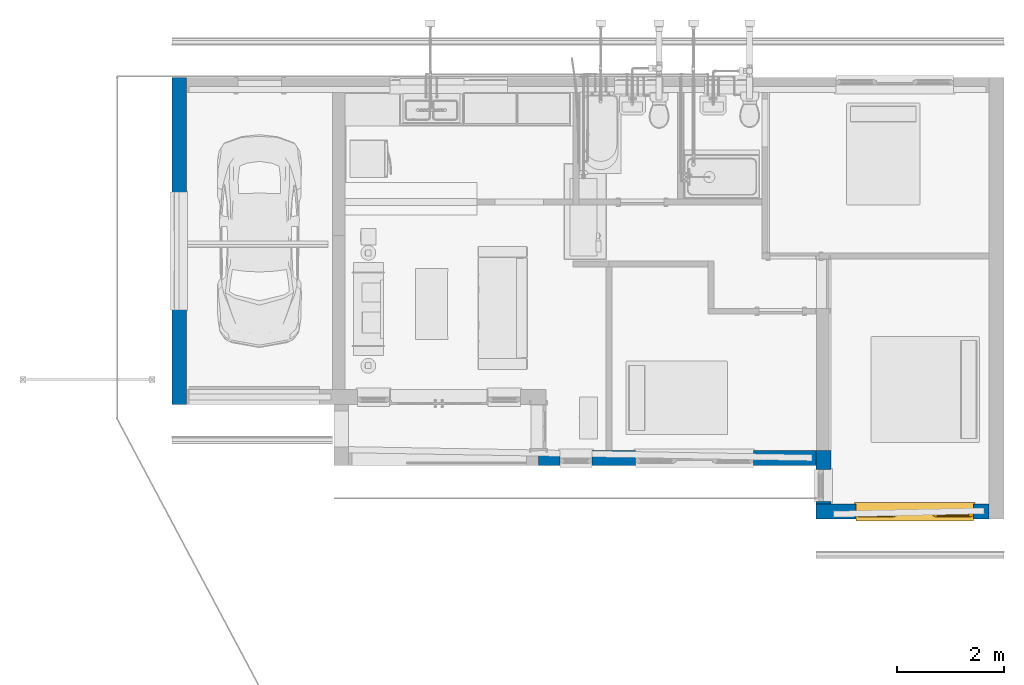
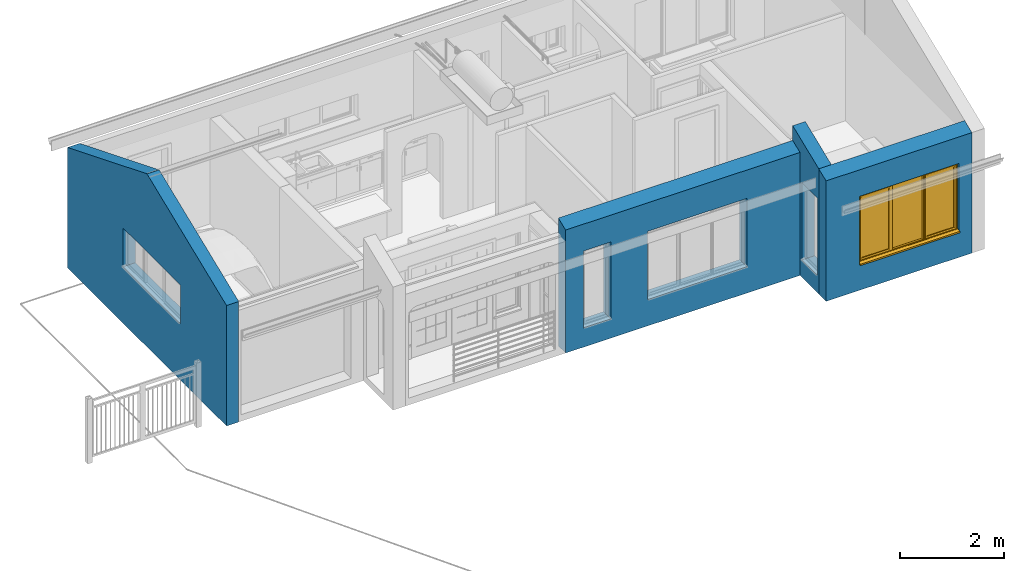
# One storey, part 2 of 41: 4 walls, 1 window, 6 openings.
"""IFC2X3 building model written with IfcOpenShell, lengths in millimetres."""

from ifc_helpers import new_model, entity, si_unit, converted_unit, derived_unit, direction, frame, frame_2d, origin, place, context, subcontext, project, spatial, polyline, rectangle, extrude, clip, bounded_halfspace, faceted_brep, source, transform, mapped, material, material_list, layer, layer_set, layer_usage, type_object, type_shapes, element, fill, save


model = new_model("IFC2X3")

# Units and contexts
model_context = context("Model", 3, precision=0.01, world=origin(), true_north=direction((6.12303176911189e-17, 1.0)))
body_context = subcontext(model_context, "Body", "Model", "MODEL_VIEW")
ifc_project = project(units=[si_unit("LENGTHUNIT", "METRE", prefix="MILLI"), si_unit("AREAUNIT", "SQUARE_METRE"), si_unit("VOLUMEUNIT", "CUBIC_METRE"), converted_unit("PLANEANGLEUNIT", "DEGREE", entity("IfcRatioMeasure", 0.0174532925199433), si_unit("PLANEANGLEUNIT", "RADIAN"), dimensions=[0, 0, 0, 0, 0, 0, 0]), si_unit("MASSUNIT", "GRAM", prefix="KILO"), derived_unit("MASSDENSITYUNIT", [(si_unit("MASSUNIT", "GRAM", prefix="KILO"), 1), (si_unit("LENGTHUNIT", "METRE"), -3)]), si_unit("TIMEUNIT", "SECOND"), si_unit("FREQUENCYUNIT", "HERTZ"), si_unit("THERMODYNAMICTEMPERATUREUNIT", "DEGREE_CELSIUS"), derived_unit("THERMALTRANSMITTANCEUNIT", [(si_unit("MASSUNIT", "GRAM", prefix="KILO"), 1), (si_unit("THERMODYNAMICTEMPERATUREUNIT", "KELVIN"), -1), (si_unit("TIMEUNIT", "SECOND"), -3)]), derived_unit("VOLUMETRICFLOWRATEUNIT", [(si_unit("LENGTHUNIT", "METRE"), 3), (si_unit("TIMEUNIT", "SECOND"), -1)]), si_unit("ELECTRICCURRENTUNIT", "AMPERE"), si_unit("ELECTRICVOLTAGEUNIT", "VOLT"), si_unit("POWERUNIT", "WATT"), si_unit("FORCEUNIT", "NEWTON", prefix="KILO"), si_unit("ILLUMINANCEUNIT", "LUX"), si_unit("LUMINOUSFLUXUNIT", "LUMEN"), si_unit("LUMINOUSINTENSITYUNIT", "CANDELA"), derived_unit("USERDEFINED", [(si_unit("MASSUNIT", "GRAM", prefix="KILO"), -1), (si_unit("LENGTHUNIT", "METRE"), -2), (si_unit("TIMEUNIT", "SECOND"), 3), (si_unit("LUMINOUSFLUXUNIT", "LUMEN"), 1)]), derived_unit("LINEARVELOCITYUNIT", [(si_unit("LENGTHUNIT", "METRE"), 1), (si_unit("TIMEUNIT", "SECOND"), -1)]), si_unit("PRESSUREUNIT", "PASCAL"), derived_unit("USERDEFINED", [(si_unit("LENGTHUNIT", "METRE"), -2), (si_unit("MASSUNIT", "GRAM", prefix="KILO"), 1), (si_unit("TIMEUNIT", "SECOND"), -2)])], contexts=[model_context])

# Site, building, storey
site_placement = place(None, origin())
site = spatial("IfcSite", under=ifc_project, at=site_placement, Name="Surface", CompositionType="ELEMENT")
building_placement = place(site_placement, origin())
building = spatial("IfcBuilding", under=site, at=building_placement, CompositionType="ELEMENT")
storey_placement = place(building_placement, frame((0.0, 0.0, 300.0)))
storey = spatial("IfcBuildingStorey", under=building, at=storey_placement, Name="F.F.L", CompositionType="ELEMENT", Elevation=300.0)

# Wall, openings, window
ifc_material_1 = material(Name="Brickwork - Facebrick (Plettenberg Autumn)")
ifc_layer_1 = layer(ifc_material_1, 110.0)
ifc_material_2 = material(Name="Air Infiltration Barrier")
ifc_layer_2 = layer(ifc_material_2, 50.0)
ifc_material_3 = material(Name="Brickwork - 110mm (Stock)")
ifc_layer_3 = layer(ifc_material_3, 110.0)
ifc_material_4 = material(Name="Plaster")
ifc_layer_4 = layer(ifc_material_4, 10.0)
ifc_layer_set_1 = layer_set([ifc_layer_1, ifc_layer_2, ifc_layer_3, ifc_layer_4], Name="Basic Wall:BrickWall - 270mm (Ext.F&Int.S)")
ifc_layer_usage_1 = layer_usage(ifc_layer_set_1, "AXIS2", "NEGATIVE", 140.0)
wall_type_1 = type_object("IfcWallType", Name="Basic Wall:BrickWall - 270mm (Ext.F&Int.S)", PredefinedType="STANDARD", material=ifc_layer_set_1)
wall_1_placement = place(storey_placement, frame((3183.1248299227, 2720.84008915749, -150.0), z_axis=(0.0, 0.0, 1.0), x_axis=(-1.0, 0.0, 0.0)))
wall_1 = element("IfcWallStandardCase", 1, at=wall_1_placement, inside=storey, type_object=wall_type_1, material=ifc_layer_usage_1, Name="Basic Wall:BrickWall - 270mm (Ext.F&Int.S)", ObjectType="Basic Wall:BrickWall - 270mm (Ext.F&Int.S)", context=body_context, shape_type="Clipping", body=[
    clip(extrude(rectangle(XDim=3230.0, YDim=280.0, at=frame_2d((1615.0, 0.0), x_axis=(-1.0, 0.0))), origin(), (0.0, 0.0, 1.0), 2932.80200914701), bounded_halfspace(frame((0.0, -140.0, 2932.80200914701), z_axis=(0.0, 0.374606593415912, 0.927183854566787), x_axis=(-1.0, 0.0, 0.0)), False, frame((0.0, -140.0, 2932.80200914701)), polyline([(0.0, 0.0), (2950.0, 0.0), (3230.0, 0.0), (3230.0, 280.0), (0.0, 280.0), (0.0, 0.0)]))),
])
opening_1_placement = place(wall_1_placement, origin())
element("IfcOpeningElement", 2, at=opening_1_placement, cuts=wall_1, Name="Basic Wall:BrickWall - 270mm (Ext.F&Int.S)", ObjectType="Opening", context=body_context, shape_type="SweptSolid", body=[
    extrude(rectangle(XDim=1800.0, YDim=280.0, at=frame_2d((0.0, 0.0), x_axis=(0.0, 1.0))), frame((3090.0, -780.0, 1315.0), z_axis=(0.0, 1.0, 0.0), x_axis=(1.0, 0.0, 0.0)), (0.0, 0.0, 1.0), 600.0),
])
opening_2_placement = place(wall_1_placement, frame((290.0, -140.0, 600.0)))
opening_2 = element("IfcOpeningElement", 3, at=opening_2_placement, cuts=wall_1, Name="Tpl All Bars1:Tpl All Bars 4:1", ObjectType="Opening", context=body_context, shape_type="SweptSolid", body=[
    extrude(rectangle(XDim=1600.0, YDim=2200.0, at=frame_2d((800.000000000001, 1100.0), x_axis=(-1.0, 0.0))), frame((0.0, 0.0, 0.0), z_axis=(0.0, 1.0, 0.0), x_axis=(0.0, 0.0, 1.0)), (0.0, 0.0, 1.0), 280.0),
])
ifc_material_5 = material(Name="Meranti - Varnish Mat")
ifc_material_6 = material(Name="Glass")
ifc_material_list_1 = material_list([ifc_material_5, ifc_material_6])
ifc_material_list_2 = material_list([ifc_material_5, ifc_material_6])
window_style = type_object("IfcWindowStyle", Name="Tpl All Bars 4", ConstructionType="NOTDEFINED", OperationType="TRIPLE_PANEL_VERTICAL", ParameterTakesPrecedence=False, Sizeable=False, material=ifc_material_list_2)
shared_shape = source(origin(), body_context, "Body", "Brep", [
    faceted_brep([(-25.0, -25.0, 0.0), (-25.0, 0.0, 0.0), (0.0, 0.0, 0.0), (0.0, 147.0, 0.0), (2200.0, 147.0, 0.0), (2200.0, 0.0, 0.0), (2225.0, 0.0, 0.0), (2225.0, -25.0, 0.0), (-25.0, -25.0, 25.0), (2225.0, -25.0, 25.0), (2225.0, 0.0, 25.0), (2200.0, 0.0, 25.0), (2200.0, 147.0, 25.0), (0.0, 147.0, 25.0), (0.0, 0.0, 25.0), (-25.0, 0.0, 25.0)], [[[0, 1, 2, 3, 4, 5, 6, 7]], [[8, 9, 10, 11, 12, 13, 14, 15]], [[1, 0, 8, 15]], [[2, 1, 15, 14]], [[3, 2, 14, 13]], [[4, 3, 13, 12]], [[5, 4, 12, 11]], [[6, 5, 11, 10]], [[7, 6, 10, 9]], [[0, 7, 9, 8]]]),
    faceted_brep([(2140.0, 147.0, 1540.0), (2140.0, 147.0, 75.0), (1499.66666666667, 147.0, 75.0), (1499.66666666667, 147.0, 1540.0), (1441.66666666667, 147.0, 1540.0), (1441.66666666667, 147.0, 75.0), (758.333333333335, 147.0, 75.0), (758.333333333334, 147.0, 1540.0), (700.333333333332, 147.0, 1540.0), (700.333333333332, 147.0, 75.0), (60.0, 147.0, 75.0), (60.0, 147.0, 1540.0), (2200.0, 147.0, 1600.0), (0.0, 147.0, 1600.0), (0.0, 147.0, 0.0), (2200.0, 147.0, 0.0), (0.0, 230.0, 1600.0), (0.0, 230.0, 51.0), (0.0, 245.0, 49.6876700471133), (0.0, 245.0, 44.7449676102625), (0.0, 317.500000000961, 33.808884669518), (0.0, 317.500000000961, 0.0), (2200.0, 230.0, 1600.0), (2200.0, 230.0, 51.0), (40.0, 230.0, 1560.0), (40.0, 230.0, 63.0), (718.333333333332, 230.0, 63.0), (718.333333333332, 230.0, 1560.0), (758.333333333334, 230.0, 1560.0), (758.333333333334, 230.0, 63.0), (1441.66666666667, 230.0, 63.0), (1441.66666666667, 230.0, 1560.0), (1481.66666666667, 230.0, 1560.0), (1481.66666666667, 230.0, 63.0), (2160.0, 230.0, 63.0), (2160.0, 230.0, 1560.0), (40.0, 165.0, 1560.0), (40.0, 165.0, 63.0), (718.333333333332, 165.0, 1560.0), (718.333333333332, 165.0, 63.0), (700.333333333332, 165.0, 1540.0), (60.0, 165.0, 1540.0), (60.0, 165.0, 75.0), (700.333333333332, 165.0, 75.0), (2200.0, 317.500000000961, 0.0), (2200.0, 317.500000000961, 33.808884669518), (2200.0, 245.0, 44.7449676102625), (2200.0, 245.0, 49.6876700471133), (2160.0, 165.0, 63.0), (2160.0, 165.0, 1560.0), (2140.0, 165.0, 1540.0), (2140.0, 165.0, 75.0), (758.333333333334, 165.0, 1540.0), (758.333333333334, 165.0, 75.0), (758.333333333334, 189.0, 1560.0), (758.333333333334, 189.0, 63.0), (748.333333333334, 189.0, 1560.0), (748.333333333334, 189.0, 63.0), (748.333333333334, 165.0, 1560.0), (748.333333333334, 165.0, 63.0), (1451.66666666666, 189.0, 1560.0), (1451.66666666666, 189.0, 63.0), (1451.66666666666, 165.0, 63.0), (1451.66666666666, 165.0, 1560.0), (1441.66666666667, 189.0, 1560.0), (1441.66666666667, 189.0, 63.0), (1481.66666666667, 165.0, 1560.0), (1481.66666666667, 165.0, 63.0), (1499.66666666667, 165.0, 1540.0), (1499.66666666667, 165.0, 75.0), (1441.66666666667, 165.0, 1540.0), (1441.66666666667, 165.0, 75.0)], [[[0, 1, 2, 3], [4, 5, 6, 7], [8, 9, 10, 11], [12, 13, 14, 15]], [[14, 13, 16, 17, 18, 19, 20, 21]], [[17, 16, 22, 23], [24, 25, 26, 27], [28, 29, 30, 31], [32, 33, 34, 35]], [[25, 24, 36, 37]], [[36, 38, 39, 37], [40, 41, 42, 43]], [[41, 11, 10, 42]], [[13, 12, 22, 16]], [[36, 24, 27, 38]], [[11, 41, 40, 8]], [[23, 22, 12, 15, 44, 45, 46, 47]], [[35, 34, 48, 49]], [[0, 50, 51, 1]], [[52, 7, 6, 53]], [[8, 40, 43, 9]], [[27, 26, 39, 38]], [[29, 28, 54, 55]], [[55, 54, 56, 57]], [[57, 56, 58, 59]], [[60, 61, 62, 63]], [[61, 60, 64, 65]], [[65, 64, 31, 30]], [[33, 32, 66, 67]], [[68, 3, 2, 69]], [[4, 70, 71, 5]], [[44, 15, 14, 21]], [[45, 44, 21, 20]], [[46, 45, 20, 19]], [[47, 46, 19, 18]], [[23, 47, 18, 17]], [[34, 33, 67, 48]], [[2, 1, 51, 69]], [[71, 53, 6, 5]], [[43, 42, 10, 9]], [[59, 62, 61, 65, 30, 29, 55, 57]], [[26, 25, 37, 39]], [[7, 52, 70, 4]], [[50, 0, 3, 68]], [[54, 28, 31, 64, 60, 63, 58, 56]], [[35, 49, 66, 32]], [[58, 63, 62, 59], [70, 52, 53, 71]], [[66, 49, 48, 67], [50, 68, 69, 51]]], outer=[[False, False, False, True], [True], [True, False, False, False], [True], [True, False], [True], [True], [True], [True], [True], [True], [True], [True], [True], [True], [True], [True], [True], [True], [True], [True], [True], [True], [True], [True], [True], [True], [True], [True], [True], [True], [True], [True], [True], [True], [True], [True], [True], [True], [True, False], [True, False]]),
    faceted_brep([(2130.0, 194.0, 1530.0), (1511.66666666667, 194.0, 1530.0), (1511.66666666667, 194.0, 93.0), (2130.0, 194.0, 93.0), (2130.0, 218.0, 1530.0), (2130.0, 218.0, 93.0), (1511.66666666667, 218.0, 93.0), (1511.66666666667, 218.0, 1530.0)], [[[0, 1, 2, 3]], [[4, 5, 6, 7]], [[1, 0, 4, 7]], [[2, 1, 7, 6]], [[3, 2, 6, 5]], [[0, 3, 5, 4]]]),
    faceted_brep([(1451.66666666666, 189.0, 1560.0), (1451.66666666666, 189.0, 63.0), (748.333333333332, 189.0, 63.0), (748.333333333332, 189.0, 1560.0), (1451.66666666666, 165.0, 1560.0), (748.333333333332, 165.0, 1560.0), (748.333333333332, 165.0, 63.0), (1451.66666666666, 165.0, 63.0)], [[[0, 1, 2, 3]], [[4, 5, 6, 7]], [[1, 0, 4, 7]], [[2, 1, 7, 6]], [[3, 2, 6, 5]], [[0, 3, 5, 4]]]),
    faceted_brep([(70.0, 194.0, 1530.14803772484), (70.0, 194.0, 93.0), (688.481371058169, 194.0, 93.0), (688.481371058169, 194.0, 1530.14803772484), (70.0, 218.0, 1530.14803772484), (688.481371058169, 218.0, 1530.14803772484), (688.481371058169, 218.0, 93.0), (70.0, 218.0, 93.0)], [[[0, 1, 2, 3]], [[4, 5, 6, 7]], [[1, 0, 4, 7]], [[2, 1, 7, 6]], [[3, 2, 6, 5]], [[0, 3, 5, 4]]]),
    faceted_brep([(728.333333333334, 230.0, 1570.0), (728.333333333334, 235.773502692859, 1570.0), (30.0, 235.773502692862, 1570.0), (30.0, 230.0, 1570.0), (718.333333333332, 165.0, 1560.0), (718.333333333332, 230.0, 1560.0), (40.0, 230.0, 1560.0), (40.0, 165.0, 1560.0), (678.333333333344, 179.492899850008, 1520.0), (688.481371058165, 165.0, 1530.14803772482), (69.8519622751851, 165.0, 1530.14803772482), (80.0, 179.49289985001, 1520.0), (678.333333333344, 194.0, 1520.0), (80.0, 194.0, 1520.0), (688.333333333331, 218.0, 1530.0), (688.333333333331, 194.0, 1530.0), (70.0, 194.0, 1530.0), (70.0, 218.0, 1530.0), (678.333333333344, 235.773502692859, 1520.0), (678.333333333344, 218.0, 1520.0), (80.0, 218.0, 1520.0), (80.0, 235.773502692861, 1520.0), (695.779088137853, 241.547005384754, 1537.4457548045), (62.5542451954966, 241.547005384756, 1537.4457548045), (717.548723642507, 241.547005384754, 1559.21539030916), (40.7846096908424, 241.547005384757, 1559.21539030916), (30.0, 235.773502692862, 53.0), (30.0, 230.0, 53.0), (40.0, 230.0, 63.0), (40.0, 165.0, 63.0), (69.8519622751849, 165.0, 92.8519622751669), (80.0, 179.49289985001, 103.0), (80.0, 194.0, 103.0), (70.0, 194.0, 93.0), (70.0, 218.0, 93.0), (80.0, 218.0, 103.0), (80.0, 235.773502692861, 103.0), (62.5542451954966, 241.547005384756, 85.5542451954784), (40.7846096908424, 241.547005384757, 63.7846096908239), (728.333333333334, 235.773502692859, 53.0), (728.333333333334, 230.0, 53.0), (718.333333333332, 230.0, 63.0), (718.333333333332, 165.0, 63.0), (688.481371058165, 165.0, 92.8519622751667), (678.333333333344, 179.492899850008, 103.0), (678.333333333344, 194.0, 103.0), (688.333333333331, 194.0, 93.0), (688.333333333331, 218.0, 93.0), (678.333333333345, 218.0, 103.0), (678.333333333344, 235.773502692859, 103.0), (695.779088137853, 241.547005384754, 85.5542451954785), (717.548723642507, 241.547005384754, 63.7846096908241)], [[[0, 1, 2, 3]], [[4, 5, 6, 7]], [[8, 9, 10, 11]], [[12, 8, 11, 13]], [[14, 15, 16, 17]], [[18, 19, 20, 21]], [[22, 18, 21, 23]], [[1, 24, 25, 2]], [[3, 2, 26, 27]], [[7, 6, 28, 29]], [[11, 10, 30, 31]], [[13, 11, 31, 32]], [[17, 16, 33, 34]], [[21, 20, 35, 36]], [[23, 21, 36, 37]], [[2, 25, 38, 26]], [[27, 26, 39, 40]], [[0, 3, 27, 40], [41, 28, 6, 5]], [[29, 28, 41, 42]], [[4, 7, 29, 42], [43, 30, 10, 9]], [[31, 30, 43, 44]], [[32, 31, 44, 45]], [[12, 13, 32, 45], [46, 33, 16, 15]], [[34, 33, 46, 47]], [[14, 17, 34, 47], [48, 35, 20, 19]], [[36, 35, 48, 49]], [[37, 36, 49, 50]], [[22, 23, 37, 50], [51, 38, 25, 24]], [[26, 38, 51, 39]], [[40, 39, 1, 0]], [[42, 41, 5, 4]], [[44, 43, 9, 8]], [[45, 44, 8, 12]], [[47, 46, 15, 14]], [[49, 48, 19, 18]], [[50, 49, 18, 22]], [[39, 51, 24, 1]]], outer=[[True], [True], [True], [True], [True], [True], [True], [True], [True], [True], [True], [True], [True], [True], [True], [True], [True], [True, False], [True], [True, False], [True], [True], [False, True], [True], [True, False], [True], [True], [False, True], [True], [True], [True], [True], [True], [True], [True], [True], [True]]),
    faceted_brep([(1471.66666666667, 230.0, 1570.0), (1471.66666666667, 235.773502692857, 1570.0), (1471.66666666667, 235.773502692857, 53.0), (1471.66666666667, 230.0, 53.0), (1481.66666666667, 165.0, 1560.0), (1481.66666666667, 230.0, 1560.0), (1481.66666666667, 230.0, 63.0), (1481.66666666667, 165.0, 63.0), (1521.66666666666, 179.492899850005, 1520.0), (1511.51862894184, 165.0, 1530.14803772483), (1511.51862894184, 165.0, 92.8519622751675), (1521.66666666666, 179.492899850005, 103.0), (1521.66666666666, 194.0, 1520.0), (1521.66666666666, 194.0, 103.0), (1511.66666666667, 218.0, 1530.0), (1511.66666666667, 194.0, 1530.0), (1511.66666666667, 194.0, 93.0), (1511.66666666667, 218.0, 93.0), (1521.66666666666, 235.773502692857, 1520.0), (1521.66666666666, 218.0, 1520.0), (1521.66666666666, 218.0, 103.0), (1521.66666666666, 235.773502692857, 103.0), (1504.22091186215, 241.547005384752, 1537.44575480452), (1504.22091186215, 241.547005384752, 85.5542451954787), (1482.45127635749, 241.547005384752, 1559.21539030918), (1482.45127635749, 241.547005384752, 63.7846096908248), (2170.0, 235.773502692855, 53.0), (2170.0, 230.0, 53.0), (2160.0, 230.0, 63.0), (2160.0, 165.0, 63.0), (2130.14803772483, 165.0, 92.8519622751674), (2120.0, 179.492899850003, 103.0), (2120.0, 194.0, 103.0), (2130.0, 194.0, 93.0), (2130.0, 218.0, 93.0), (2120.0, 218.0, 103.0), (2120.0, 235.773502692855, 103.0), (2137.44575480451, 241.54700538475, 85.5542451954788), (2159.21539030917, 241.54700538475, 63.7846096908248), (2170.0, 235.773502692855, 1570.0), (2170.0, 230.0, 1570.0), (2160.0, 230.0, 1560.0), (2160.0, 165.0, 1560.0), (2130.14803772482, 165.0, 1530.14803772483), (2120.0, 179.492899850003, 1520.0), (2120.0, 194.0, 1520.0), (2130.0, 194.0, 1530.0), (2130.0, 218.0, 1530.0), (2120.0, 218.0, 1520.0), (2120.0, 235.773502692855, 1520.0), (2137.44575480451, 241.54700538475, 1537.44575480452), (2159.21539030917, 241.54700538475, 1559.21539030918)], [[[0, 1, 2, 3]], [[4, 5, 6, 7]], [[8, 9, 10, 11]], [[12, 8, 11, 13]], [[14, 15, 16, 17]], [[18, 19, 20, 21]], [[22, 18, 21, 23]], [[1, 24, 25, 2]], [[3, 2, 26, 27]], [[7, 6, 28, 29]], [[11, 10, 30, 31]], [[13, 11, 31, 32]], [[17, 16, 33, 34]], [[21, 20, 35, 36]], [[23, 21, 36, 37]], [[2, 25, 38, 26]], [[27, 26, 39, 40]], [[29, 28, 41, 42]], [[31, 30, 43, 44]], [[32, 31, 44, 45]], [[34, 33, 46, 47]], [[36, 35, 48, 49]], [[37, 36, 49, 50]], [[26, 38, 51, 39]], [[40, 39, 1, 0]], [[3, 27, 40, 0], [5, 41, 28, 6]], [[42, 41, 5, 4]], [[7, 29, 42, 4], [9, 43, 30, 10]], [[44, 43, 9, 8]], [[45, 44, 8, 12]], [[13, 32, 45, 12], [15, 46, 33, 16]], [[47, 46, 15, 14]], [[17, 34, 47, 14], [19, 48, 35, 20]], [[49, 48, 19, 18]], [[50, 49, 18, 22]], [[23, 37, 50, 22], [24, 51, 38, 25]], [[39, 51, 24, 1]]], outer=[[True], [True], [True], [True], [True], [True], [True], [True], [True], [True], [True], [True], [True], [True], [True], [True], [True], [True], [True], [True], [True], [True], [True], [True], [True], [True, False], [True], [True, False], [True], [True], [False, True], [True], [True, False], [True], [True], [False, True], [True]]),
    faceted_brep([(1090.0, 173.0, 63.0), (1110.0, 173.0, 63.0), (1110.0, 173.0, 552.0), (1451.66666666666, 173.0, 552.0), (1451.66666666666, 173.0, 572.0), (1110.0, 173.0, 572.0), (1110.0, 173.0, 1051.0), (1451.66666666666, 173.0, 1051.0), (1451.66666666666, 173.0, 1071.0), (1110.0, 173.0, 1071.0), (1110.0, 173.0, 1560.0), (1090.0, 173.0, 1560.0), (1090.0, 173.0, 1071.0), (748.33333333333, 173.0, 1071.0), (748.33333333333, 173.0, 1051.0), (1090.0, 173.0, 1051.0), (1090.0, 173.0, 572.0), (748.33333333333, 173.0, 572.0), (748.33333333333, 173.0, 552.0), (1090.0, 173.0, 552.0), (1090.0, 181.0, 63.0), (1090.0, 181.0, 552.0), (748.33333333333, 181.0, 552.0), (748.33333333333, 181.0, 572.0), (1090.0, 181.0, 572.0), (1090.0, 181.0, 1051.0), (748.33333333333, 181.0, 1051.0), (748.33333333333, 181.0, 1071.0), (1090.0, 181.0, 1071.0), (1090.0, 181.0, 1560.0), (1110.0, 181.0, 1560.0), (1110.0, 181.0, 1071.0), (1451.66666666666, 181.0, 1071.0), (1451.66666666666, 181.0, 1051.0), (1110.0, 181.0, 1051.0), (1110.0, 181.0, 572.0), (1451.66666666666, 181.0, 572.0), (1451.66666666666, 181.0, 552.0), (1110.0, 181.0, 552.0), (1110.0, 181.0, 63.0)], [[[0, 1, 2, 3, 4, 5, 6, 7, 8, 9, 10, 11, 12, 13, 14, 15, 16, 17, 18, 19]], [[20, 21, 22, 23, 24, 25, 26, 27, 28, 29, 30, 31, 32, 33, 34, 35, 36, 37, 38, 39]], [[1, 0, 20, 39]], [[2, 1, 39, 38]], [[3, 2, 38, 37]], [[4, 3, 37, 36]], [[5, 4, 36, 35]], [[6, 5, 35, 34]], [[7, 6, 34, 33]], [[8, 7, 33, 32]], [[9, 8, 32, 31]], [[10, 9, 31, 30]], [[11, 10, 30, 29]], [[12, 11, 29, 28]], [[13, 12, 28, 27]], [[14, 13, 27, 26]], [[15, 14, 26, 25]], [[16, 15, 25, 24]], [[17, 16, 24, 23]], [[18, 17, 23, 22]], [[19, 18, 22, 21]], [[0, 19, 21, 20]]]),
    faceted_brep([(369.166666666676, 210.0, 93.0), (369.166666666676, 210.0, 552.0), (70.0, 210.0, 552.0), (70.0, 210.0, 572.0), (369.166666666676, 210.0, 572.0), (369.166666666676, 210.0, 1051.0), (70.0, 210.0, 1051.0), (70.0, 210.0, 1071.0), (369.166666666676, 210.0, 1071.0), (369.166666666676, 210.0, 1530.0), (389.166666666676, 210.0, 1530.0), (389.166666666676, 210.0, 1071.0), (688.333333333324, 210.0, 1071.0), (688.333333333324, 210.0, 1051.0), (389.166666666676, 210.0, 1051.0), (389.166666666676, 210.0, 572.0), (688.333333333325, 210.0, 572.0), (688.333333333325, 210.0, 552.0), (389.166666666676, 210.0, 552.0), (389.166666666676, 210.0, 93.0), (369.166666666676, 202.0, 93.0), (389.166666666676, 202.0, 93.0), (389.166666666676, 202.0, 552.0), (688.333333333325, 202.0, 552.0), (688.333333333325, 202.0, 572.0), (389.166666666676, 202.0, 572.0), (389.166666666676, 202.0, 1051.0), (688.333333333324, 202.0, 1051.0), (688.333333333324, 202.0, 1071.0), (389.166666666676, 202.0, 1071.0), (389.166666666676, 202.0, 1530.0), (369.166666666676, 202.0, 1530.0), (369.166666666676, 202.0, 1071.0), (70.0, 202.0, 1071.0), (70.0, 202.0, 1051.0), (369.166666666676, 202.0, 1051.0), (369.166666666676, 202.0, 572.0), (70.0, 202.0, 572.0), (70.0, 202.0, 552.0), (369.166666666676, 202.0, 552.0)], [[[0, 1, 2, 3, 4, 5, 6, 7, 8, 9, 10, 11, 12, 13, 14, 15, 16, 17, 18, 19]], [[20, 21, 22, 23, 24, 25, 26, 27, 28, 29, 30, 31, 32, 33, 34, 35, 36, 37, 38, 39]], [[1, 0, 20, 39]], [[2, 1, 39, 38]], [[3, 2, 38, 37]], [[4, 3, 37, 36]], [[5, 4, 36, 35]], [[6, 5, 35, 34]], [[7, 6, 34, 33]], [[8, 7, 33, 32]], [[9, 8, 32, 31]], [[10, 9, 31, 30]], [[11, 10, 30, 29]], [[12, 11, 29, 28]], [[13, 12, 28, 27]], [[14, 13, 27, 26]], [[15, 14, 26, 25]], [[16, 15, 25, 24]], [[17, 16, 24, 23]], [[18, 17, 23, 22]], [[19, 18, 22, 21]], [[0, 19, 21, 20]]]),
    faceted_brep([(1810.83333333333, 210.0, 565.333333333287), (1810.83333333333, 210.0, 93.0), (1810.83333333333, 202.0, 93.0), (1810.83333333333, 202.0, 565.333333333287), (1511.66666666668, 210.0, 565.333333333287), (1511.66666666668, 202.0, 565.333333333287), (1511.66666666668, 210.0, 585.333333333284), (1511.66666666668, 202.0, 585.333333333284), (1810.83333333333, 210.0, 585.333333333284), (1810.83333333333, 202.0, 585.333333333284), (1810.83333333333, 210.0, 1051.0), (1810.83333333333, 202.0, 1051.0), (1511.66666666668, 210.0, 1051.0), (1511.66666666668, 202.0, 1051.0), (1511.66666666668, 210.0, 1071.0), (1511.66666666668, 202.0, 1071.0), (1810.83333333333, 210.0, 1071.0), (1810.83333333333, 202.0, 1071.0), (1810.83333333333, 210.0, 1530.0), (1810.83333333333, 202.0, 1530.0), (1830.83333333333, 210.0, 1530.0), (1830.83333333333, 202.0, 1530.0), (1830.83333333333, 210.0, 1071.0), (1830.83333333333, 202.0, 1071.0), (2130.0, 210.0, 1071.0), (2130.0, 202.0, 1071.0), (2130.0, 210.0, 1051.0), (2130.0, 202.0, 1051.0), (1830.83333333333, 210.0, 1051.0), (1830.83333333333, 202.0, 1051.0), (1830.83333333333, 210.0, 585.333333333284), (1830.83333333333, 202.0, 585.333333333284), (2130.0, 210.0, 585.333333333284), (2130.0, 202.0, 585.333333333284), (2130.0, 210.0, 565.333333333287), (2130.0, 202.0, 565.333333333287), (1830.83333333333, 210.0, 565.333333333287), (1830.83333333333, 202.0, 565.333333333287), (1830.83333333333, 210.0, 93.0), (1830.83333333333, 202.0, 93.0)], [[[0, 1, 2, 3]], [[4, 0, 3, 5]], [[6, 4, 5, 7]], [[8, 6, 7, 9]], [[10, 8, 9, 11]], [[12, 10, 11, 13]], [[14, 12, 13, 15]], [[16, 14, 15, 17]], [[18, 16, 17, 19]], [[20, 18, 19, 21]], [[22, 20, 21, 23]], [[24, 22, 23, 25]], [[26, 24, 25, 27]], [[28, 26, 27, 29]], [[30, 28, 29, 31]], [[32, 30, 31, 33]], [[34, 32, 33, 35]], [[36, 34, 35, 37]], [[38, 36, 37, 39]], [[1, 38, 39, 2]], [[2, 39, 37, 35, 33, 31, 29, 27, 25, 23, 21, 19, 17, 15, 13, 11, 9, 7, 5, 3]], [[1, 0, 4, 6, 8, 10, 12, 14, 16, 18, 20, 22, 24, 26, 28, 30, 32, 34, 36, 38]]]),
])
type_shapes(window_style, [shared_shape])
window_placement = place(opening_2_placement, origin())
window = element("IfcWindow", 4, at=window_placement, inside=storey, type_object=window_style, material=ifc_material_list_1, Name="Tpl All Bars1:Tpl All Bars 4", ObjectType="Tpl All Bars 4", OverallHeight=1600.0, OverallWidth=2200.0, context=body_context, shape_type="MappedRepresentation", body=[
    mapped(shared_shape, transform((0.0, 0.0, 0.0), scale=1.0)),
])
fill(opening_2, window)

# Wall, openings
ifc_layer_usage_2 = layer_usage(ifc_layer_set_1, "AXIS2", "POSITIVE", -140.0)
wall_2_placement = place(storey_placement, frame((-5376.8751700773, 3720.8400891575, -150.0)))
wall_2 = element("IfcWallStandardCase", 5, at=wall_2_placement, inside=storey, type_object=wall_type_1, material=ifc_layer_usage_2, Name="Basic Wall:BrickWall - 270mm (Ext.F&Int.S)", ObjectType="Basic Wall:BrickWall - 270mm (Ext.F&Int.S)", context=body_context, shape_type="Clipping", body=[
    clip(extrude(rectangle(XDim=5190.0, YDim=280.0, at=frame_2d((2735.0, 3.97903932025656e-13), x_axis=(-1.0, 0.0))), origin(), (0.0, 0.0, 1.0), 2993.00402225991), bounded_halfspace(frame((140.0, -140.0, 2879.87667902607), z_axis=(0.0, -0.374606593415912, 0.927183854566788), x_axis=(1.0, 0.0, 0.0)), False, frame((140.0, -140.0, 2879.87667902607)), polyline([(0.0, 0.0), (5190.0, 0.0), (5190.0, 280.0), (0.0, 280.0), (0.0, 0.0)]))),
])
opening_3_placement = place(wall_2_placement, frame((4155.0, 140.0, 615.0)))
element("IfcOpeningElement", 6, at=opening_3_placement, cuts=wall_2, Name="Tpl All Bars1:Tpl All Bars 5:1", ObjectType="Opening", context=body_context, shape_type="SweptSolid", body=[
    extrude(rectangle(XDim=1600.0, YDim=2200.0, at=frame_2d((800.0, 1100.0), x_axis=(-1.0, 0.0))), frame((0.0, 0.0, 0.0), z_axis=(0.0, -1.0, 0.0), x_axis=(0.0, 0.0, 1.0)), (0.0, 0.0, 1.0), 280.0),
])
opening_4_placement = place(wall_2_placement, frame((1140.0, 140.0, 450.0)))
element("IfcOpeningElement", 7, at=opening_4_placement, cuts=wall_2, Name="Sgl All Bars:M_Casement 2x3:1", ObjectType="Opening", context=body_context, shape_type="SweptSolid", body=[
    extrude(rectangle(XDim=1800.0, YDim=600.0, at=frame_2d((900.0, 300.0), x_axis=(-1.0, 0.0))), frame((0.0, 0.0, 0.0), z_axis=(0.0, -1.0, 0.0), x_axis=(0.0, 0.0, 1.0)), (0.0, 0.0, 1.0), 280.0),
])

# Wall, opening
ifc_layer_5 = layer(ifc_material_4, 10.0)
ifc_layer_6 = layer(ifc_material_3, 110.0)
ifc_layer_7 = layer(ifc_material_2, 50.0)
ifc_layer_8 = layer(ifc_material_1, 110.0)
ifc_layer_set_2 = layer_set([ifc_layer_5, ifc_layer_6, ifc_layer_7, ifc_layer_8], Name="Basic Wall:BrickWall - 270mm (Ext.F&Int.S) 2")
ifc_layer_usage_3 = layer_usage(ifc_layer_set_2, "AXIS2", "POSITIVE", -140.0)
wall_type_2 = type_object("IfcWallType", Name="Basic Wall:BrickWall - 270mm (Ext.F&Int.S) 2", PredefinedType="STANDARD", material=ifc_layer_set_2)
wall_3_placement = place(storey_placement, frame((93.1248299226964, 2860.84008915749, -150.0), z_axis=(0.0, 0.0, 1.0), x_axis=(0.0, 1.0, 0.0)))
wall_3 = element("IfcWallStandardCase", 8, at=wall_3_placement, inside=storey, type_object=wall_type_2, material=ifc_layer_usage_3, Name="Basic Wall:BrickWall - 270mm (Ext.F&Int.S) 2", ObjectType="Basic Wall:BrickWall - 270mm (Ext.F&Int.S) 2", context=body_context, shape_type="Clipping", body=[
    clip(extrude(rectangle(XDim=999.999999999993, YDim=280.0, at=frame_2d((499.999999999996, 0.0), x_axis=(-1.0, 0.0))), origin(), (0.0, 0.0, 1.0), 3336.82823498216), bounded_halfspace(frame((0.0, -140.0, 2932.80200914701), z_axis=(-0.374606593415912, 0.0, 0.927183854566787), x_axis=(0.0, -1.0, 0.0)), False, frame((0.0, -140.0, 2932.80200914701)), polyline([(0.0, 0.0), (1000.0, 0.0), (1000.0, 280.0), (0.0, 280.0), (0.0, 0.0)]))),
])
opening_5_placement = place(wall_3_placement, frame((40.0, -140.0, 415.0)))
element("IfcOpeningElement", 9, at=opening_5_placement, cuts=wall_3, Name="Sgl All Bars:M_Casement 2x3:1", ObjectType="Opening", context=body_context, shape_type="SweptSolid", body=[
    extrude(rectangle(XDim=1800.0, YDim=600.0, at=frame_2d((900.0, 300.0), x_axis=(-1.0, 0.0))), frame((0.0, 0.0, 0.0), z_axis=(0.0, 1.0, 0.0), x_axis=(0.0, 0.0, 1.0)), (0.0, 0.0, 1.0), 280.0),
])

ifc_layer_9 = layer(ifc_material_1, 110.0)
ifc_layer_10 = layer(ifc_material_2, 50.0)
ifc_layer_11 = layer(ifc_material_1, 110.0)
ifc_layer_set_3 = layer_set([ifc_layer_9, ifc_layer_10, ifc_layer_11], Name="Basic Wall:BrickWall - 270mm (Ext.F&Int.F)")
ifc_layer_usage_4 = layer_usage(ifc_layer_set_3, "AXIS2", "POSITIVE", -135.0)
wall_type_3 = type_object("IfcWallType", Name="Basic Wall:BrickWall - 270mm (Ext.F&Int.F)", PredefinedType="STANDARD", material=ifc_layer_set_3)
wall_4_placement = place(storey_placement, frame((-11951.8751700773, 10825.8400891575, -150.0), z_axis=(0.0, 0.0, 1.0), x_axis=(0.0, -1.0, 0.0)))
wall_4 = element("IfcWallStandardCase", 10, at=wall_4_placement, inside=storey, type_object=wall_type_3, material=ifc_layer_usage_4, Name="Basic Wall:BrickWall - 270mm (Ext.F&Int.F)", ObjectType="Basic Wall:BrickWall - 270mm (Ext.F&Int.F)", context=body_context, shape_type="Clipping", body=[
    clip(clip(extrude(rectangle(XDim=6105.0, YDim=269.999999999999, at=frame_2d((3052.5, 0.0), x_axis=(-1.0, 0.0))), origin(), (0.0, 0.0, 1.0), 4052.66201849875), bounded_halfspace(frame((3053.24921318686, -135.0, 4052.66201849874), z_axis=(0.374606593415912, 0.0, 0.927183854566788), x_axis=(0.0, 1.0, 0.0)), False, frame((3053.24921318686, -135.0, 4052.66201849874)), polyline([(0.0, 0.0), (3051.75078681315, 0.0), (3051.75078681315, 270.0), (0.0, 270.0), (0.0, 0.0)]))), bounded_halfspace(frame((0.0, -135.0, 2820.28006946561), z_axis=(-0.374606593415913, 0.0, 0.927183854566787), x_axis=(0.0, -1.0, 0.0)), False, frame((0.0, -135.0, 2820.28006946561)), polyline([(0.0, 0.0), (3050.25236043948, 0.0), (3050.25236043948, 270.0), (280.0, 270.0), (0.0, 270.0), (0.0, 0.0)]))),
])
opening_6_placement = place(wall_4_placement, frame((4340.0, 135.0, 1326.05036652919)))
element("IfcOpeningElement", 11, at=opening_6_placement, cuts=wall_4, Name="Tpl All Bars1:Tpl All Bars:1", ObjectType="Opening", context=body_context, shape_type="SweptSolid", body=[
    extrude(rectangle(XDim=900.000000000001, YDim=2200.0, at=frame_2d((450.0, 1100.0), x_axis=(-1.0, 0.0))), frame((0.0, 0.0, 0.0), z_axis=(0.0, -1.0, 0.0), x_axis=(0.0, 0.0, 1.0)), (0.0, 0.0, 1.0), 270.0),
])

save(model, "model.ifc")
